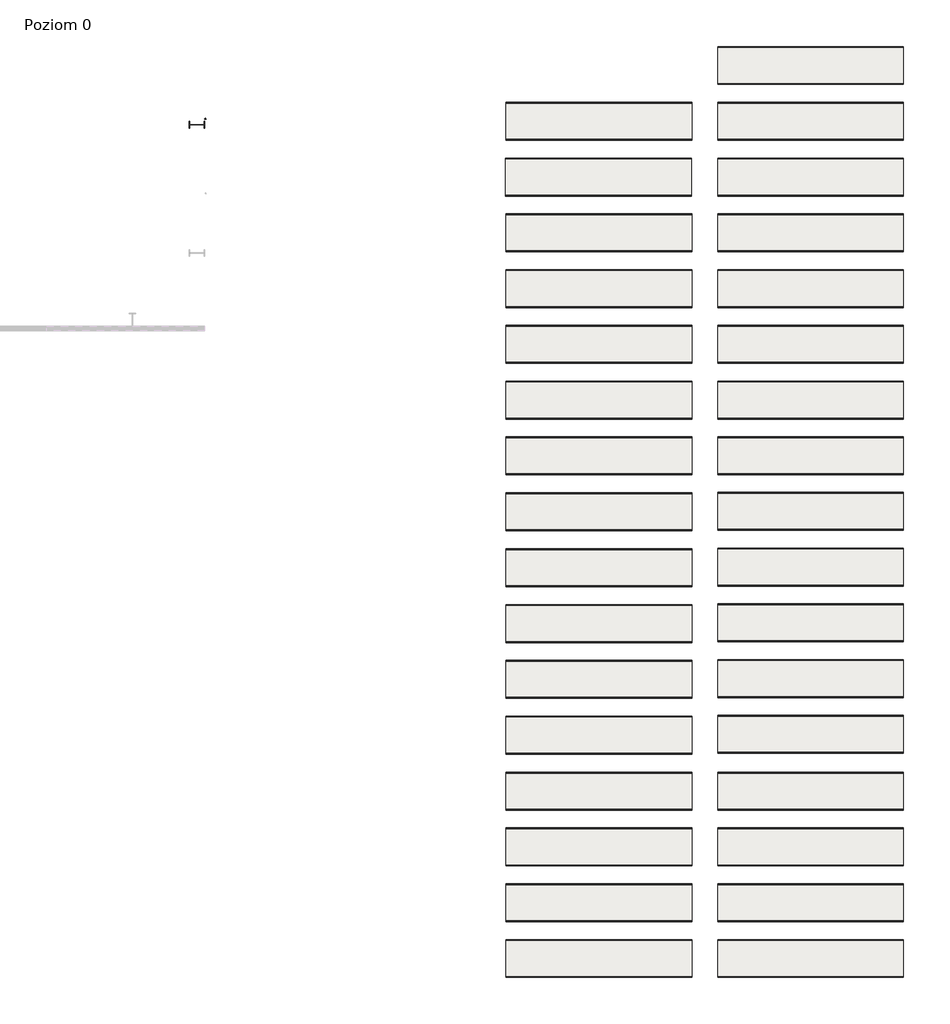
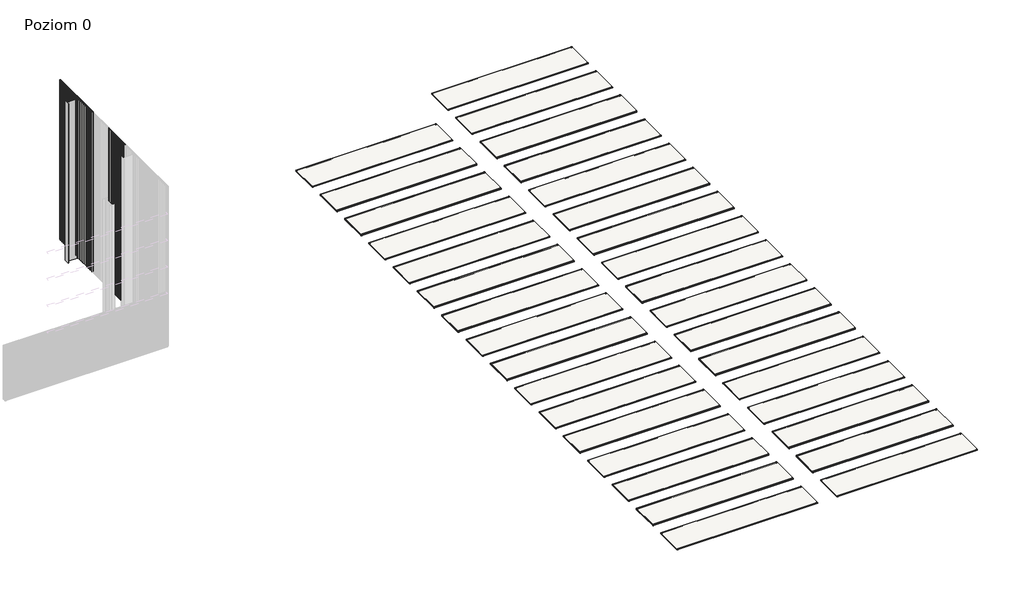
# One storey, part 3 of 3: 36 coverings, 1 column.
"""IFC4 building model written with IfcOpenShell, lengths in millimetres."""

from ifc_helpers import new_model, si_unit, origin, place, context, project, spatial, transform, mapped, element, save
from components import standard1_standard_8d04f7a0, covering_55037079, covering_53a61d3a

model = new_model("IFC4")

# Units and contexts
model_context = context("Model", 3, world=origin())
ifc_project = project(units=[si_unit("LENGTHUNIT", "METRE", prefix="MILLI")], contexts=[model_context])

# Site, building, storey
site = spatial("IfcSite", under=ifc_project)
building = spatial("IfcBuilding", under=site)
storey = spatial("IfcBuildingStorey", under=building, Name="Poziom 0", Elevation=0.0)

# Column
placement = place(None, origin())
standard1_standard_shape = standard1_standard_8d04f7a0(model_context)
element("IfcColumn", 1, ObjectType="Standard1 : Standard", at=placement, inside=storey, context=model_context, shape_type="MappedRepresentation", body=[
    mapped(standard1_standard_shape, transform((-652.7962443, -4043.6992704, 0.0), x_axis=(0.0, 1.0, 0.0), y_axis=(-1.0, 0.0, 0.0), z_axis=(0.0, 0.0, 1.0))),
])

# Coverings
covering_shape = covering_55037079(model_context)
element("IfcCovering", 2, ObjectType="Wall sandwich panel SPW-S CORE PIR (single sheet) : -", at=placement, inside=storey, context=model_context, shape_type="MappedRepresentation", body=[
    mapped(covering_shape, transform((-406.8962443, -2858.69927, 6000.0), x_axis=(0.0, 1.0, 0.0), y_axis=(0.0, 0.0, 1.0), z_axis=(1.0, 0.0, 0.0))),
])
element("IfcCovering", 3, ObjectType="Wall sandwich panel SPW-S CORE PIR (single sheet) : -", at=placement, inside=storey, context=model_context, shape_type="MappedRepresentation", body=[
    mapped(covering_shape, transform((-406.8962443, -3858.6992702, 6000.0), x_axis=(0.0, 1.0, 0.0), y_axis=(0.0, 0.0, 1.0), z_axis=(1.0, 0.0, 0.0))),
])
element("IfcCovering", 4, ObjectType="Wall sandwich panel SPW-S CORE PIR (single sheet) : -", at=placement, inside=storey, context=model_context, shape_type="MappedRepresentation", body=[
    mapped(covering_shape, transform((-406.8962443, -5858.6992702, 6000.0), x_axis=(0.0, 1.0, 0.0), y_axis=(0.0, 0.0, 1.0), z_axis=(1.0, 0.0, 0.0))),
])
covering_2_shape = covering_53a61d3a(model_context)
element("IfcCovering", 5, ObjectType="Wall sandwich panel SPW-S CORE PIR (single sheet) : -", at=placement, inside=storey, context=model_context, shape_type="MappedRepresentation", body=[
    mapped(covering_2_shape, transform((12661.4641213, -4480.5974484, 100.0), x_axis=(0.0, -1.0, 0.0), y_axis=(1.0, 0.0, 0.0), z_axis=(0.0, 0.0, 1.0))),
])
element("IfcCovering", 6, ObjectType="Wall sandwich panel SPW-S CORE PIR (single sheet) : -", at=placement, inside=storey, context=model_context, shape_type="MappedRepresentation", body=[
    mapped(covering_2_shape, transform((12656.9489348, -5980.5974484, 100.0), x_axis=(0.0, -1.0, 0.0), y_axis=(1.0, 0.0, 0.0), z_axis=(0.0, 0.0, 1.0))),
])
element("IfcCovering", 7, ObjectType="Wall sandwich panel SPW-S CORE PIR (single sheet) : -", at=placement, inside=storey, context=model_context, shape_type="MappedRepresentation", body=[
    mapped(covering_2_shape, transform((12661.4641213, -7480.5974484, 100.0), x_axis=(0.0, -1.0, 0.0), y_axis=(1.0, 0.0, 0.0), z_axis=(0.0, 0.0, 1.0))),
])
element("IfcCovering", 8, ObjectType="Wall sandwich panel SPW-S CORE PIR (single sheet) : -", at=placement, inside=storey, context=model_context, shape_type="MappedRepresentation", body=[
    mapped(covering_2_shape, transform((12661.4641213, -8980.5974484, 100.0), x_axis=(0.0, -1.0, 0.0), y_axis=(1.0, 0.0, 0.0), z_axis=(0.0, 0.0, 1.0))),
])
element("IfcCovering", 9, ObjectType="Wall sandwich panel SPW-S CORE PIR (single sheet) : -", at=placement, inside=storey, context=model_context, shape_type="MappedRepresentation", body=[
    mapped(covering_2_shape, transform((12661.4641213, -10480.5974484, 100.0), x_axis=(0.0, -1.0, 0.0), y_axis=(1.0, 0.0, 0.0), z_axis=(0.0, 0.0, 1.0))),
])
element("IfcCovering", 10, ObjectType="Wall sandwich panel SPW-S CORE PIR (single sheet) : -", at=placement, inside=storey, context=model_context, shape_type="MappedRepresentation", body=[
    mapped(covering_2_shape, transform((12661.4641213, -11980.5974484, 100.0), x_axis=(0.0, -1.0, 0.0), y_axis=(1.0, 0.0, 0.0), z_axis=(0.0, 0.0, 1.0))),
])
element("IfcCovering", 11, ObjectType="Wall sandwich panel SPW-S CORE PIR (single sheet) : -", at=placement, inside=storey, context=model_context, shape_type="MappedRepresentation", body=[
    mapped(covering_2_shape, transform((12661.4641213, -13480.5974484, 100.0), x_axis=(0.0, -1.0, 0.0), y_axis=(1.0, 0.0, 0.0), z_axis=(0.0, 0.0, 1.0))),
])
element("IfcCovering", 12, ObjectType="Wall sandwich panel SPW-S CORE PIR (single sheet) : -", at=placement, inside=storey, context=model_context, shape_type="MappedRepresentation", body=[
    mapped(covering_2_shape, transform((12661.4641213, -14980.5974484, 100.0), x_axis=(0.0, -1.0, 0.0), y_axis=(1.0, 0.0, 0.0), z_axis=(0.0, 0.0, 1.0))),
])
element("IfcCovering", 13, ObjectType="Wall sandwich panel SPW-S CORE PIR (single sheet) : -", at=placement, inside=storey, context=model_context, shape_type="MappedRepresentation", body=[
    mapped(covering_2_shape, transform((12661.4641213, -16490.082932, 100.0), x_axis=(0.0, -1.0, 0.0), y_axis=(1.0, 0.0, 0.0), z_axis=(0.0, 0.0, 1.0))),
])
element("IfcCovering", 14, ObjectType="Wall sandwich panel SPW-S CORE PIR (single sheet) : -", at=placement, inside=storey, context=model_context, shape_type="MappedRepresentation", body=[
    mapped(covering_2_shape, transform((12661.4641213, -17990.082932, 100.0), x_axis=(0.0, -1.0, 0.0), y_axis=(1.0, 0.0, 0.0), z_axis=(0.0, 0.0, 1.0))),
])
element("IfcCovering", 15, ObjectType="Wall sandwich panel SPW-S CORE PIR (single sheet) : -", at=placement, inside=storey, context=model_context, shape_type="MappedRepresentation", body=[
    mapped(covering_2_shape, transform((12661.4641213, -19490.082932, 100.0), x_axis=(0.0, -1.0, 0.0), y_axis=(1.0, 0.0, 0.0), z_axis=(0.0, 0.0, 1.0))),
])
element("IfcCovering", 16, ObjectType="Wall sandwich panel SPW-S CORE PIR (single sheet) : -", at=placement, inside=storey, context=model_context, shape_type="MappedRepresentation", body=[
    mapped(covering_2_shape, transform((12661.4641213, -20990.082932, 100.0), x_axis=(0.0, -1.0, 0.0), y_axis=(1.0, 0.0, 0.0), z_axis=(0.0, 0.0, 1.0))),
])
element("IfcCovering", 17, ObjectType="Wall sandwich panel SPW-S CORE PIR (single sheet) : -", at=placement, inside=storey, context=model_context, shape_type="MappedRepresentation", body=[
    mapped(covering_2_shape, transform((12661.4641213, -22499.5684156, 100.0), x_axis=(0.0, -1.0, 0.0), y_axis=(1.0, 0.0, 0.0), z_axis=(0.0, 0.0, 1.0))),
])
element("IfcCovering", 18, ObjectType="Wall sandwich panel SPW-S CORE PIR (single sheet) : -", at=placement, inside=storey, context=model_context, shape_type="MappedRepresentation", body=[
    mapped(covering_2_shape, transform((12661.4641213, -23999.5684156, 100.0), x_axis=(0.0, -1.0, 0.0), y_axis=(1.0, 0.0, 0.0), z_axis=(0.0, 0.0, 1.0))),
])
element("IfcCovering", 19, ObjectType="Wall sandwich panel SPW-S CORE PIR (single sheet) : -", at=placement, inside=storey, context=model_context, shape_type="MappedRepresentation", body=[
    mapped(covering_2_shape, transform((12661.4641213, -25499.5684156, 100.0), x_axis=(0.0, -1.0, 0.0), y_axis=(1.0, 0.0, 0.0), z_axis=(0.0, 0.0, 1.0))),
])
element("IfcCovering", 20, ObjectType="Wall sandwich panel SPW-S CORE PIR (single sheet) : -", at=placement, inside=storey, context=model_context, shape_type="MappedRepresentation", body=[
    mapped(covering_2_shape, transform((12661.4641213, -26999.5684156, 100.0), x_axis=(0.0, -1.0, 0.0), y_axis=(1.0, 0.0, 0.0), z_axis=(0.0, 0.0, 1.0))),
])
element("IfcCovering", 21, ObjectType="Wall sandwich panel SPW-S CORE PIR (single sheet) : -", at=placement, inside=storey, context=model_context, shape_type="MappedRepresentation", body=[
    mapped(covering_2_shape, transform((18361.4641213, -4480.5974484, 100.0), x_axis=(0.0, -1.0, 0.0), y_axis=(1.0, 0.0, 0.0), z_axis=(0.0, 0.0, 1.0))),
])
element("IfcCovering", 22, ObjectType="Wall sandwich panel SPW-S CORE PIR (single sheet) : -", at=placement, inside=storey, context=model_context, shape_type="MappedRepresentation", body=[
    mapped(covering_2_shape, transform((18361.4641213, -5980.5974484, 100.0), x_axis=(0.0, -1.0, 0.0), y_axis=(1.0, 0.0, 0.0), z_axis=(0.0, 0.0, 1.0))),
])
element("IfcCovering", 23, ObjectType="Wall sandwich panel SPW-S CORE PIR (single sheet) : -", at=placement, inside=storey, context=model_context, shape_type="MappedRepresentation", body=[
    mapped(covering_2_shape, transform((18361.4641213, -7480.5974484, 100.0), x_axis=(0.0, -1.0, 0.0), y_axis=(1.0, 0.0, 0.0), z_axis=(0.0, 0.0, 1.0))),
])
element("IfcCovering", 24, ObjectType="Wall sandwich panel SPW-S CORE PIR (single sheet) : -", at=placement, inside=storey, context=model_context, shape_type="MappedRepresentation", body=[
    mapped(covering_2_shape, transform((18361.4641213, -8980.5974484, 100.0), x_axis=(0.0, -1.0, 0.0), y_axis=(1.0, 0.0, 0.0), z_axis=(0.0, 0.0, 1.0))),
])
element("IfcCovering", 25, ObjectType="Wall sandwich panel SPW-S CORE PIR (single sheet) : -", at=placement, inside=storey, context=model_context, shape_type="MappedRepresentation", body=[
    mapped(covering_2_shape, transform((18361.4641213, -10480.5974484, 100.0), x_axis=(0.0, -1.0, 0.0), y_axis=(1.0, 0.0, 0.0), z_axis=(0.0, 0.0, 1.0))),
])
element("IfcCovering", 26, ObjectType="Wall sandwich panel SPW-S CORE PIR (single sheet) : -", at=placement, inside=storey, context=model_context, shape_type="MappedRepresentation", body=[
    mapped(covering_2_shape, transform((18361.4641213, -11980.5974484, 100.0), x_axis=(0.0, -1.0, 0.0), y_axis=(1.0, 0.0, 0.0), z_axis=(0.0, 0.0, 1.0))),
])
element("IfcCovering", 27, ObjectType="Wall sandwich panel SPW-S CORE PIR (single sheet) : -", at=placement, inside=storey, context=model_context, shape_type="MappedRepresentation", body=[
    mapped(covering_2_shape, transform((18361.4641213, -13480.5974484, 100.0), x_axis=(0.0, -1.0, 0.0), y_axis=(1.0, 0.0, 0.0), z_axis=(0.0, 0.0, 1.0))),
])
element("IfcCovering", 28, ObjectType="Wall sandwich panel SPW-S CORE PIR (single sheet) : -", at=placement, inside=storey, context=model_context, shape_type="MappedRepresentation", body=[
    mapped(covering_2_shape, transform((18361.4641213, -14970.1735216, 100.0), x_axis=(0.0, -1.0, 0.0), y_axis=(1.0, 0.0, 0.0), z_axis=(0.0, 0.0, 1.0))),
])
element("IfcCovering", 29, ObjectType="Wall sandwich panel SPW-S CORE PIR (single sheet) : -", at=placement, inside=storey, context=model_context, shape_type="MappedRepresentation", body=[
    mapped(covering_2_shape, transform((18361.4641213, -16470.1735216, 100.0), x_axis=(0.0, -1.0, 0.0), y_axis=(1.0, 0.0, 0.0), z_axis=(0.0, 0.0, 1.0))),
])
element("IfcCovering", 30, ObjectType="Wall sandwich panel SPW-S CORE PIR (single sheet) : -", at=placement, inside=storey, context=model_context, shape_type="MappedRepresentation", body=[
    mapped(covering_2_shape, transform((18361.4641213, -17970.1735216, 100.0), x_axis=(0.0, -1.0, 0.0), y_axis=(1.0, 0.0, 0.0), z_axis=(0.0, 0.0, 1.0))),
])
element("IfcCovering", 31, ObjectType="Wall sandwich panel SPW-S CORE PIR (single sheet) : -", at=placement, inside=storey, context=model_context, shape_type="MappedRepresentation", body=[
    mapped(covering_2_shape, transform((18361.4641213, -19470.1735216, 100.0), x_axis=(0.0, -1.0, 0.0), y_axis=(1.0, 0.0, 0.0), z_axis=(0.0, 0.0, 1.0))),
])
element("IfcCovering", 32, ObjectType="Wall sandwich panel SPW-S CORE PIR (single sheet) : -", at=placement, inside=storey, context=model_context, shape_type="MappedRepresentation", body=[
    mapped(covering_2_shape, transform((18361.4641213, -22499.5684156, 100.0), x_axis=(0.0, -1.0, 0.0), y_axis=(1.0, 0.0, 0.0), z_axis=(0.0, 0.0, 1.0))),
])
element("IfcCovering", 33, ObjectType="Wall sandwich panel SPW-S CORE PIR (single sheet) : -", at=placement, inside=storey, context=model_context, shape_type="MappedRepresentation", body=[
    mapped(covering_2_shape, transform((18361.4641213, -23999.5684156, 100.0), x_axis=(0.0, -1.0, 0.0), y_axis=(1.0, 0.0, 0.0), z_axis=(0.0, 0.0, 1.0))),
])
element("IfcCovering", 34, ObjectType="Wall sandwich panel SPW-S CORE PIR (single sheet) : -", at=placement, inside=storey, context=model_context, shape_type="MappedRepresentation", body=[
    mapped(covering_2_shape, transform((18361.4641213, -25499.5684156, 100.0), x_axis=(0.0, -1.0, 0.0), y_axis=(1.0, 0.0, 0.0), z_axis=(0.0, 0.0, 1.0))),
])
element("IfcCovering", 35, ObjectType="Wall sandwich panel SPW-S CORE PIR (single sheet) : -", at=placement, inside=storey, context=model_context, shape_type="MappedRepresentation", body=[
    mapped(covering_2_shape, transform((18361.4641213, -26999.5684156, 100.0), x_axis=(0.0, -1.0, 0.0), y_axis=(1.0, 0.0, 0.0), z_axis=(0.0, 0.0, 1.0))),
])
element("IfcCovering", 36, ObjectType="Wall sandwich panel SPW-S CORE PIR (single sheet) : -", at=placement, inside=storey, context=model_context, shape_type="MappedRepresentation", body=[
    mapped(covering_2_shape, transform((18361.4641213, -2980.5974484, 100.0), x_axis=(0.0, -1.0, 0.0), y_axis=(1.0, 0.0, 0.0), z_axis=(0.0, 0.0, 1.0))),
])
element("IfcCovering", 37, ObjectType="Wall sandwich panel SPW-S CORE PIR (single sheet) : -", at=placement, inside=storey, context=model_context, shape_type="MappedRepresentation", body=[
    mapped(covering_2_shape, transform((18361.4641213, -20970.1735216, 100.0), x_axis=(0.0, -1.0, 0.0), y_axis=(1.0, 0.0, 0.0), z_axis=(0.0, 0.0, 1.0))),
])

save(model, "model.ifc")
